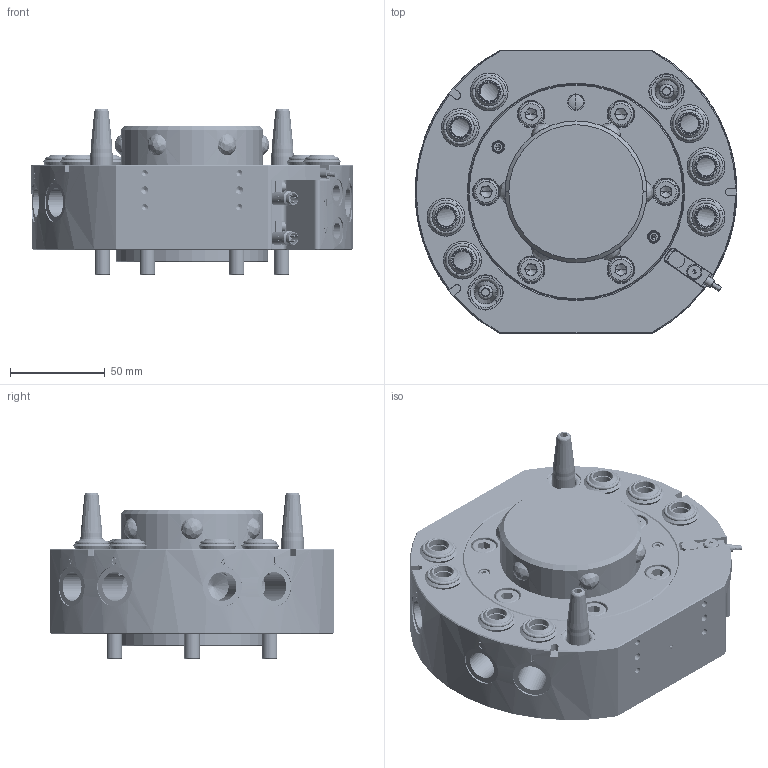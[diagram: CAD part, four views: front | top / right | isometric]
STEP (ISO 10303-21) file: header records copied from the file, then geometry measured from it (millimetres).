
FILE_DESCRIPTION (( 'STEP AP203' ), '1' );
FILE_NAME ('QCA-100R-SP.STEP', '2024-03-05T09:22:10', ( '微软用户' ), ( '微软中国' ), 'SwSTEP 2.0', 'SolidWorks 2018', '' );
FILE_SCHEMA (( 'CONFIG_CONTROL_DESIGN' ));
Products named in the file (1): QCA-100R-SP
Bounding box: 170 x 150 x 88 mm (x, y, z)
Volume: 1033438.2 mm3; surface area: 121858.4 mm2
Topology: 1 solids, 42 shells, 3044 faces, 6945 edges, 4057 vertices
Faces by surface type: cone 1231, cylinder 882, plane 647, bspline 278, torus 6
Entity records: 95338 total; most frequent: CARTESIAN_POINT 26967, DIRECTION 15337, ORIENTED_EDGE 13646, EDGE_CURVE 6823, AXIS2_PLACEMENT_3D 6136, VERTEX_POINT 4057, CIRCLE 3369, EDGE_LOOP 3312
